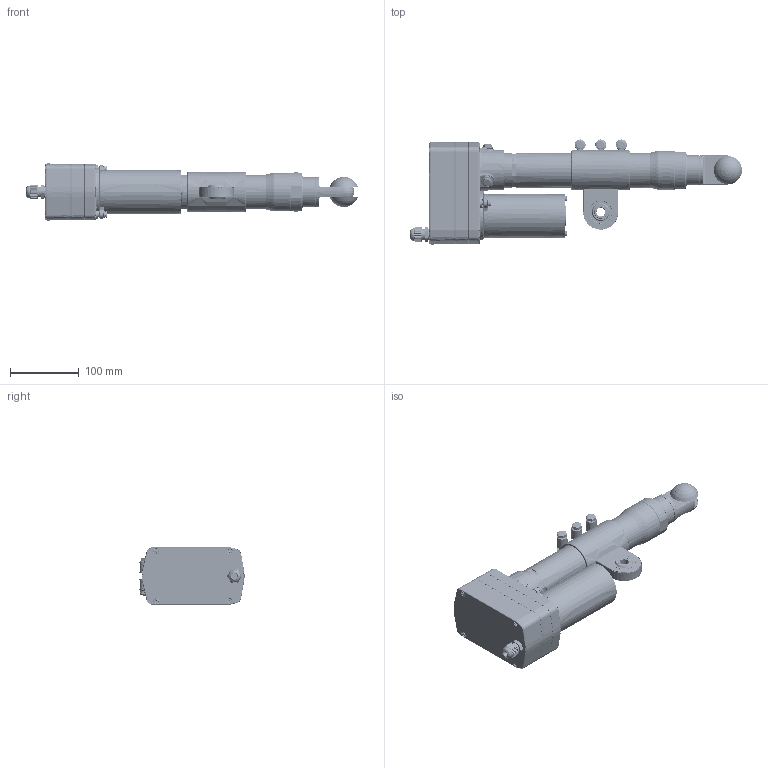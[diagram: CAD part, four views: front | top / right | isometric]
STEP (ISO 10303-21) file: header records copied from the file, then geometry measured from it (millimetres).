
FILE_DESCRIPTION((''),'2;1');
FILE_NAME('ID18-A-102_ASM','2014-06-18T',('hank'),(''),'PRO/ENGINEER BY PARAMETRIC TECHNOLOGY CORPORATION, 2008400','PRO/ENGINEER BY PARAMETRIC TECHNOLOGY CORPORATION, 2008400','');
FILE_SCHEMA(('CONFIG_CONTROL_DESIGN'));
Products named in the file (3): GEAR-A-102; INNERTUBE; ID18-A-102_ASM
Assembly tree (2 placements, depth 2):
  ID18-A-102_ASM
    GEAR-A-102
    INNERTUBE
Bounding box: 483.4 x 152.95 x 83.14 mm (x, y, z)
Surface area: 457263.8 mm2 (no closed solid volume)
Topology: 0 solids, 0 shells, 2449 faces, 12414 edges, 12259 vertices
Faces by surface type: bspline 2227, torus 198, sphere 24
Entity records: 314666 total; most frequent: CARTESIAN_POINT 198707, DIRECTION 17045, TRIMMED_CURVE 14156, DEFINITIONAL_REPRESENTATION 12093, PCURVE 12093, COMPOSITE_CURVE_SEGMENT 12093, VECTOR 11721, LINE 11721
